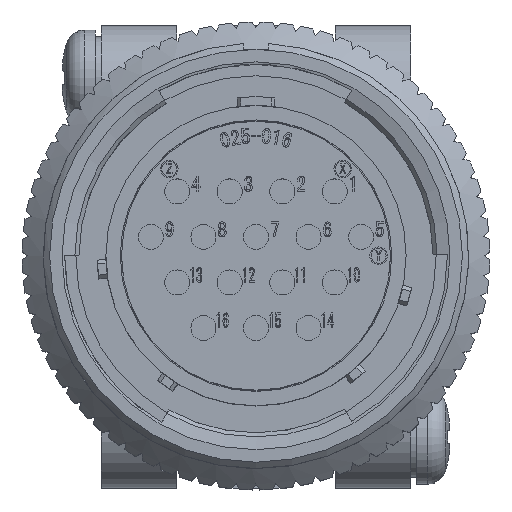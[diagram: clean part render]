
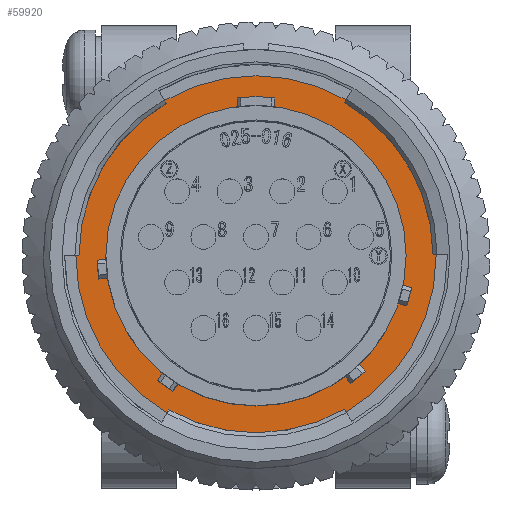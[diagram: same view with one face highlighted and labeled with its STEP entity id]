
A CAD part, top view. The second image highlights one B-rep face of the part: STEP entity #59920.
In plain terms, the highlighted planar face has unit normal (0, 0, 1).
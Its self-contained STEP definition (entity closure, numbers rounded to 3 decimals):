
#985 = CIRCLE ( 'NONE', #31007, 12. ) ;
#2971 = EDGE_LOOP ( 'NONE', ( #42008 ) ) ;
#7089 = DIRECTION ( 'NONE',  ( 1., 0., 0. ) ) ;
#11924 = DIRECTION ( 'NONE',  ( 0., 0., 1. ) ) ;
#14510 = FACE_BOUND ( 'NONE', #2971, .T. ) ;
#14539 = DIRECTION ( 'NONE',  ( 1., 0., 0. ) ) ;
#16668 = PLANE ( 'NONE',  #34473 ) ;
#17720 = AXIS2_PLACEMENT_3D ( 'NONE', #41780, #63836, #14539 ) ;
#22785 = EDGE_CURVE ( 'NONE', #48359, #48359, #985, .T. ) ;
#22940 = VERTEX_POINT ( 'NONE', #23468 ) ;
#23468 = CARTESIAN_POINT ( 'NONE',  ( 14.4, 0., -10.1 ) ) ;
#26169 = ORIENTED_EDGE ( 'NONE', *, *, #34044, .T. ) ;
#31007 = AXIS2_PLACEMENT_3D ( 'NONE', #60763, #11924, #50575 ) ;
#31428 = FACE_OUTER_BOUND ( 'NONE', #38334, .T. ) ;
#32986 = DIRECTION ( 'NONE',  ( 0., 0., 1. ) ) ;
#34044 = EDGE_CURVE ( 'NONE', #22940, #22940, #49237, .T. ) ;
#34473 = AXIS2_PLACEMENT_3D ( 'NONE', #54585, #32986, #7089 ) ;
#38334 = EDGE_LOOP ( 'NONE', ( #26169 ) ) ;
#40727 = CARTESIAN_POINT ( 'NONE',  ( 12., 0., -10.1 ) ) ;
#41780 = CARTESIAN_POINT ( 'NONE',  ( 0., 0., -10.1 ) ) ;
#42008 = ORIENTED_EDGE ( 'NONE', *, *, #22785, .F. ) ;
#48359 = VERTEX_POINT ( 'NONE', #40727 ) ;
#49237 = CIRCLE ( 'NONE', #17720, 14.4 ) ;
#50575 = DIRECTION ( 'NONE',  ( 1., 0., 0. ) ) ;
#54585 = CARTESIAN_POINT ( 'NONE',  ( 0., 0., -10.1 ) ) ;
#59920 = ADVANCED_FACE ( 'NONE', ( #14510, #31428 ), #16668, .T. ) ;
#60763 = CARTESIAN_POINT ( 'NONE',  ( 0., 0., -10.1 ) ) ;
#63836 = DIRECTION ( 'NONE',  ( 0., 0., 1. ) ) ;
